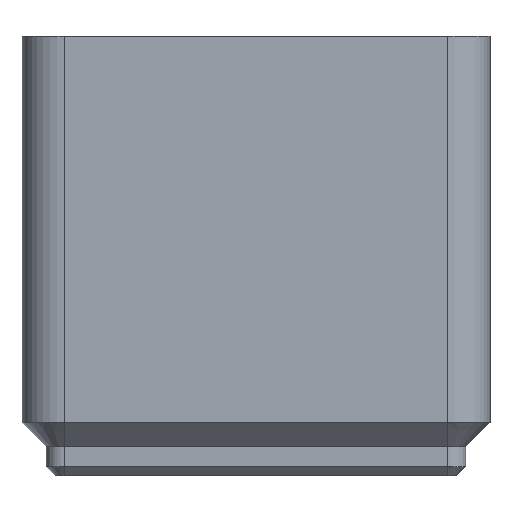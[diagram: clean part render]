
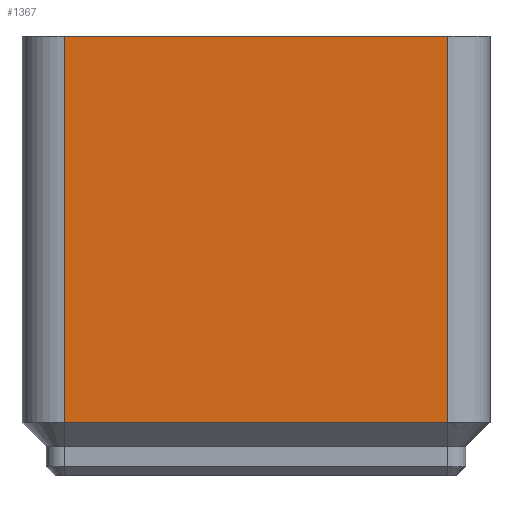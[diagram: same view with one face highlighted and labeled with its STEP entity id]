
A CAD part, front view. The second image highlights one B-rep face of the part: STEP entity #1367.
In plain terms, the highlighted planar face has unit normal (0, -1, 0).
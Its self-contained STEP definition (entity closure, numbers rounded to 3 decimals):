
#641 = PLANE('',#642);
#642 = AXIS2_PLACEMENT_3D('',#643,#644,#645);
#643 = CARTESIAN_POINT('',(0.,-20.75,4.75));
#644 = DIRECTION('',(0.,-0.707,-0.707));
#645 = DIRECTION('',(1.,0.,0.));
#754 = VERTEX_POINT('',#755);
#755 = CARTESIAN_POINT('',(-17.,-20.75,4.75));
#790 = CYLINDRICAL_SURFACE('',#791,3.75);
#791 = AXIS2_PLACEMENT_3D('',#792,#793,#794);
#792 = CARTESIAN_POINT('',(-17.,-17.,4.75));
#793 = DIRECTION('',(-0.,-0.,1.));
#794 = DIRECTION('',(-1.,0.,0.));
#1246 = VERTEX_POINT('',#1247);
#1247 = CARTESIAN_POINT('',(17.,-20.75,4.75));
#1262 = CYLINDRICAL_SURFACE('',#1263,3.75);
#1263 = AXIS2_PLACEMENT_3D('',#1264,#1265,#1266);
#1264 = CARTESIAN_POINT('',(17.,-17.,4.75));
#1265 = DIRECTION('',(-0.,-0.,1.));
#1266 = DIRECTION('',(-1.,0.,0.));
#1317 = VERTEX_POINT('',#1318);
#1318 = CARTESIAN_POINT('',(17.,-20.75,39.));
#1333 = PLANE('',#1334);
#1334 = AXIS2_PLACEMENT_3D('',#1335,#1336,#1337);
#1335 = CARTESIAN_POINT('',(-17.,-17.,39.));
#1336 = DIRECTION('',(0.,0.,-1.));
#1337 = DIRECTION('',(-1.,0.,0.));
#1345 = EDGE_CURVE('',#1246,#1317,#1346,.T.);
#1346 = SURFACE_CURVE('',#1347,(#1350,#1356),.PCURVE_S1.);
#1347 = B_SPLINE_CURVE_WITH_KNOTS('',1,(#1348,#1349),.UNSPECIFIED.,.F.,
  .F.,(2,2),(0.,1.),.PIECEWISE_BEZIER_KNOTS.);
#1348 = CARTESIAN_POINT('',(17.,-20.75,4.75));
#1349 = CARTESIAN_POINT('',(17.,-20.75,39.));
#1350 = PCURVE('',#1262,#1351);
#1351 = DEFINITIONAL_REPRESENTATION('',(#1352),#1355);
#1352 = B_SPLINE_CURVE_WITH_KNOTS('',1,(#1353,#1354),.UNSPECIFIED.,.F.,
  .F.,(2,2),(0.,1.),.PIECEWISE_BEZIER_KNOTS.);
#1353 = CARTESIAN_POINT('',(1.571,0.));
#1354 = CARTESIAN_POINT('',(1.571,34.25));
#1355 = ( GEOMETRIC_REPRESENTATION_CONTEXT(2) 
PARAMETRIC_REPRESENTATION_CONTEXT() REPRESENTATION_CONTEXT('2D SPACE',''
  ) );
#1356 = PCURVE('',#1357,#1362);
#1357 = PLANE('',#1358);
#1358 = AXIS2_PLACEMENT_3D('',#1359,#1360,#1361);
#1359 = CARTESIAN_POINT('',(0.,-20.75,39.));
#1360 = DIRECTION('',(0.,-1.,0.));
#1361 = DIRECTION('',(1.,0.,0.));
#1362 = DEFINITIONAL_REPRESENTATION('',(#1363),#1366);
#1363 = B_SPLINE_CURVE_WITH_KNOTS('',1,(#1364,#1365),.UNSPECIFIED.,.F.,
  .F.,(2,2),(0.,1.),.PIECEWISE_BEZIER_KNOTS.);
#1364 = CARTESIAN_POINT('',(17.,-34.25));
#1365 = CARTESIAN_POINT('',(17.,0.));
#1366 = ( GEOMETRIC_REPRESENTATION_CONTEXT(2) 
PARAMETRIC_REPRESENTATION_CONTEXT() REPRESENTATION_CONTEXT('2D SPACE',''
  ) );
#1367 = ADVANCED_FACE('',(#1368),#1357,.T.);
#1368 = FACE_BOUND('',#1369,.T.);
#1369 = EDGE_LOOP('',(#1370,#1391,#1392,#1415));
#1370 = ORIENTED_EDGE('',*,*,#1371,.T.);
#1371 = EDGE_CURVE('',#754,#1246,#1372,.T.);
#1372 = SURFACE_CURVE('',#1373,(#1377,#1384),.PCURVE_S1.);
#1373 = LINE('',#1374,#1375);
#1374 = CARTESIAN_POINT('',(0.,-20.75,4.75));
#1375 = VECTOR('',#1376,1.);
#1376 = DIRECTION('',(1.,0.,0.));
#1377 = PCURVE('',#1357,#1378);
#1378 = DEFINITIONAL_REPRESENTATION('',(#1379),#1383);
#1379 = LINE('',#1380,#1381);
#1380 = CARTESIAN_POINT('',(0.,-34.25));
#1381 = VECTOR('',#1382,1.);
#1382 = DIRECTION('',(1.,0.));
#1383 = ( GEOMETRIC_REPRESENTATION_CONTEXT(2) 
PARAMETRIC_REPRESENTATION_CONTEXT() REPRESENTATION_CONTEXT('2D SPACE',''
  ) );
#1384 = PCURVE('',#641,#1385);
#1385 = DEFINITIONAL_REPRESENTATION('',(#1386),#1390);
#1386 = LINE('',#1387,#1388);
#1387 = CARTESIAN_POINT('',(0.,0.));
#1388 = VECTOR('',#1389,1.);
#1389 = DIRECTION('',(1.,0.));
#1390 = ( GEOMETRIC_REPRESENTATION_CONTEXT(2) 
PARAMETRIC_REPRESENTATION_CONTEXT() REPRESENTATION_CONTEXT('2D SPACE',''
  ) );
#1391 = ORIENTED_EDGE('',*,*,#1345,.T.);
#1392 = ORIENTED_EDGE('',*,*,#1393,.F.);
#1393 = EDGE_CURVE('',#1394,#1317,#1396,.T.);
#1394 = VERTEX_POINT('',#1395);
#1395 = CARTESIAN_POINT('',(-17.,-20.75,39.));
#1396 = SURFACE_CURVE('',#1397,(#1401,#1408),.PCURVE_S1.);
#1397 = LINE('',#1398,#1399);
#1398 = CARTESIAN_POINT('',(0.,-20.75,39.));
#1399 = VECTOR('',#1400,1.);
#1400 = DIRECTION('',(1.,0.,0.));
#1401 = PCURVE('',#1357,#1402);
#1402 = DEFINITIONAL_REPRESENTATION('',(#1403),#1407);
#1403 = LINE('',#1404,#1405);
#1404 = CARTESIAN_POINT('',(0.,0.));
#1405 = VECTOR('',#1406,1.);
#1406 = DIRECTION('',(1.,0.));
#1407 = ( GEOMETRIC_REPRESENTATION_CONTEXT(2) 
PARAMETRIC_REPRESENTATION_CONTEXT() REPRESENTATION_CONTEXT('2D SPACE',''
  ) );
#1408 = PCURVE('',#1333,#1409);
#1409 = DEFINITIONAL_REPRESENTATION('',(#1410),#1414);
#1410 = LINE('',#1411,#1412);
#1411 = CARTESIAN_POINT('',(-17.,-3.75));
#1412 = VECTOR('',#1413,1.);
#1413 = DIRECTION('',(-1.,0.));
#1414 = ( GEOMETRIC_REPRESENTATION_CONTEXT(2) 
PARAMETRIC_REPRESENTATION_CONTEXT() REPRESENTATION_CONTEXT('2D SPACE',''
  ) );
#1415 = ORIENTED_EDGE('',*,*,#1416,.F.);
#1416 = EDGE_CURVE('',#754,#1394,#1417,.T.);
#1417 = SURFACE_CURVE('',#1418,(#1421,#1427),.PCURVE_S1.);
#1418 = B_SPLINE_CURVE_WITH_KNOTS('',1,(#1419,#1420),.UNSPECIFIED.,.F.,
  .F.,(2,2),(0.,1.),.PIECEWISE_BEZIER_KNOTS.);
#1419 = CARTESIAN_POINT('',(-17.,-20.75,4.75));
#1420 = CARTESIAN_POINT('',(-17.,-20.75,39.));
#1421 = PCURVE('',#1357,#1422);
#1422 = DEFINITIONAL_REPRESENTATION('',(#1423),#1426);
#1423 = B_SPLINE_CURVE_WITH_KNOTS('',1,(#1424,#1425),.UNSPECIFIED.,.F.,
  .F.,(2,2),(0.,1.),.PIECEWISE_BEZIER_KNOTS.);
#1424 = CARTESIAN_POINT('',(-17.,-34.25));
#1425 = CARTESIAN_POINT('',(-17.,0.));
#1426 = ( GEOMETRIC_REPRESENTATION_CONTEXT(2) 
PARAMETRIC_REPRESENTATION_CONTEXT() REPRESENTATION_CONTEXT('2D SPACE',''
  ) );
#1427 = PCURVE('',#790,#1428);
#1428 = DEFINITIONAL_REPRESENTATION('',(#1429),#1432);
#1429 = B_SPLINE_CURVE_WITH_KNOTS('',1,(#1430,#1431),.UNSPECIFIED.,.F.,
  .F.,(2,2),(0.,1.),.PIECEWISE_BEZIER_KNOTS.);
#1430 = CARTESIAN_POINT('',(1.571,0.));
#1431 = CARTESIAN_POINT('',(1.571,34.25));
#1432 = ( GEOMETRIC_REPRESENTATION_CONTEXT(2) 
PARAMETRIC_REPRESENTATION_CONTEXT() REPRESENTATION_CONTEXT('2D SPACE',''
  ) );
